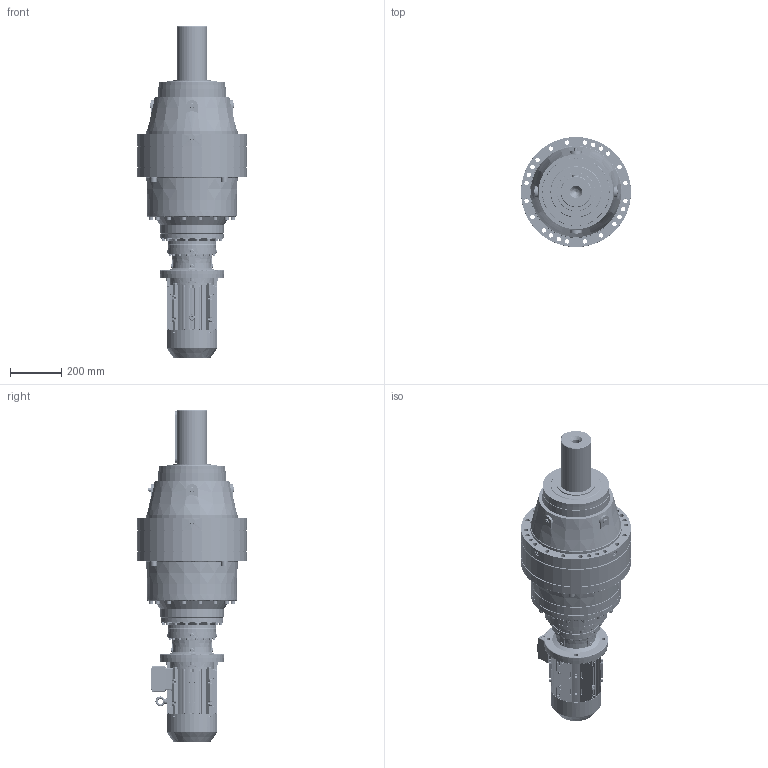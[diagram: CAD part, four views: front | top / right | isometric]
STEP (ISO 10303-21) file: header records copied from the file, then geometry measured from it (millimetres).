
FILE_DESCRIPTION (( 'STEP AP203' ), '1' );
FILE_NAME ('PVL_2904L-100L-4.STEP', '2019-05-09T10:36:36', ( '' ), ( '' ), 'SwSTEP 2.0', 'SolidWorks 2012', '' );
FILE_SCHEMA (( 'CONFIG_CONTROL_DESIGN' ));
Products named in the file (19): P29_Varsayìlan; PVL_2904L-100L-4; IE3 100 shaft cover; MX3-100L_B5; IE3 100 B5 flange; plain parallel keys_GB_CONNECTING_PIECE_KEYS_CSK 8X50; IE3 100 terminal box base; IE3 100 terminal box cover; IE3 100 fan; IE3 100 fan cover; IE3 100 B3 Shield; IE3 100 Shaft; eyebolts gb_GB_FASTENER_SCREWS_FRS M8-N; IE3 100 casing; PNL_2904L_0_0_A10_B5_ML49A_FL15A_0_0_0_0_0_0_0_0_0_0_0_M1; FL15A_Varsayìlan; EK2904L_Varsayìlan; 11100B5_Varsayìlan; ML49A_Varsayìlan
Assembly tree (19 placements, depth 3):
  PVL_2904L-100L-4
    PNL_2904L_0_0_A10_B5_ML49A_FL15A_0_0_0_0_0_0_0_0_0_0_0_M1
      P29_Varsayìlan
      11100B5_Varsayìlan
      ML49A_Varsayìlan
      EK2904L_Varsayìlan
      FL15A_Varsayìlan
    MX3-100L_B5
      IE3 100 casing
      IE3 100 B3 Shield
      IE3 100 Shaft
      eyebolts gb_GB_FASTENER_SCREWS_FRS M8-N
      IE3 100 terminal box base
      IE3 100 terminal box cover
      IE3 100 fan
      IE3 100 fan cover
      plain parallel keys_GB_CONNECTING_PIECE_KEYS_CSK 8X50
      IE3 100 shaft cover  x2
      IE3 100 B5 flange
Bounding box: 428 x 428 x 1291.11 mm (x, y, z)
Volume: 65439371.7 mm3; surface area: 3198637.3 mm2
Topology: 26 solids, 28 shells, 7881 faces, 20423 edges, 12524 vertices
Faces by surface type: plane 2707, cylinder 2173, bspline 2023, cone 578, torus 308, sphere 92
Entity records: 314926 total; most frequent: CARTESIAN_POINT 135819, ORIENTED_EDGE 39936, DIRECTION 33590, EDGE_CURVE 19968, AXIS2_PLACEMENT_3D 12748, VERTEX_POINT 12416, EDGE_LOOP 8622, VECTOR 8094
